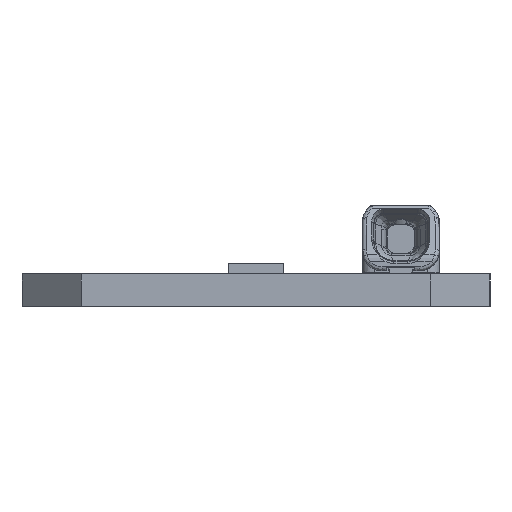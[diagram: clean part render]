
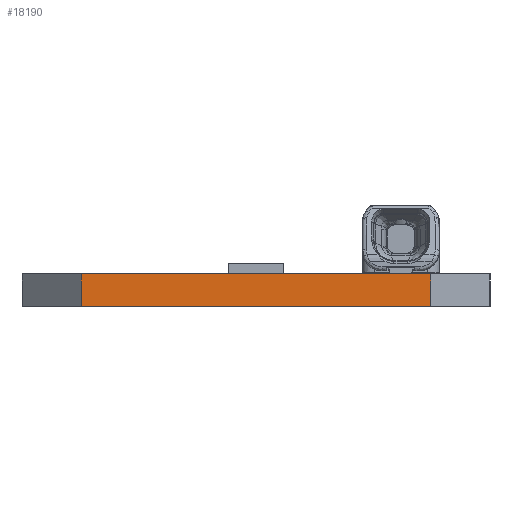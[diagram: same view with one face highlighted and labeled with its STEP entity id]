
A CAD part, left-side view. The second image highlights one B-rep face of the part: STEP entity #18190.
In plain terms, the highlighted planar face has unit normal (-1, 0, 0).
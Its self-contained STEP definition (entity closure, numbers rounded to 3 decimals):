
#2151=DIRECTION('',(0.,0.,1.));
#2152=VECTOR('',#2151,1.65);
#2153=CARTESIAN_POINT('',(-139.5,-8.8,0.));
#2154=LINE('',#2153,#2152);
#2158=DIRECTION('',(0.,1.,0.));
#2159=VECTOR('',#2158,17.6);
#2160=CARTESIAN_POINT('',(-139.5,-8.8,1.65));
#2161=LINE('',#2160,#2159);
#2249=DIRECTION('',(0.,1.,0.));
#2250=VECTOR('',#2249,17.6);
#2251=CARTESIAN_POINT('',(-139.5,-8.8,0.));
#2252=LINE('',#2251,#2250);
#2686=DIRECTION('',(0.,0.,1.));
#2687=VECTOR('',#2686,1.65);
#2688=CARTESIAN_POINT('',(-139.5,8.8,0.));
#2689=LINE('',#2688,#2687);
#15301=CARTESIAN_POINT('',(-139.5,-8.8,0.));
#15302=CARTESIAN_POINT('',(-139.5,8.8,0.));
#15303=VERTEX_POINT('',#15301);
#15304=VERTEX_POINT('',#15302);
#15461=CARTESIAN_POINT('',(-139.5,8.8,1.65));
#15462=VERTEX_POINT('',#15461);
#15477=CARTESIAN_POINT('',(-139.5,-8.8,1.65));
#15478=VERTEX_POINT('',#15477);
#18176=CARTESIAN_POINT('',(-139.5,8.8,1.65));
#18177=DIRECTION('',(-1.,0.,0.));
#18178=DIRECTION('',(0.,0.,1.));
#18179=AXIS2_PLACEMENT_3D('',#18176,#18177,#18178);
#18180=PLANE('',#18179);
#18182=ORIENTED_EDGE('',*,*,#18181,.F.);
#18184=ORIENTED_EDGE('',*,*,#18183,.T.);
#18186=ORIENTED_EDGE('',*,*,#18185,.T.);
#18187=ORIENTED_EDGE('',*,*,#17635,.F.);
#18188=EDGE_LOOP('',(#18182,#18184,#18186,#18187));
#18189=FACE_OUTER_BOUND('',#18188,.F.);
#17635=EDGE_CURVE('',#15478,#15462,#2161,.T.);
#18181=EDGE_CURVE('',#15303,#15478,#2154,.T.);
#18183=EDGE_CURVE('',#15303,#15304,#2252,.T.);
#18185=EDGE_CURVE('',#15304,#15462,#2689,.T.);
#18190=ADVANCED_FACE('',(#18189),#18180,.T.);
